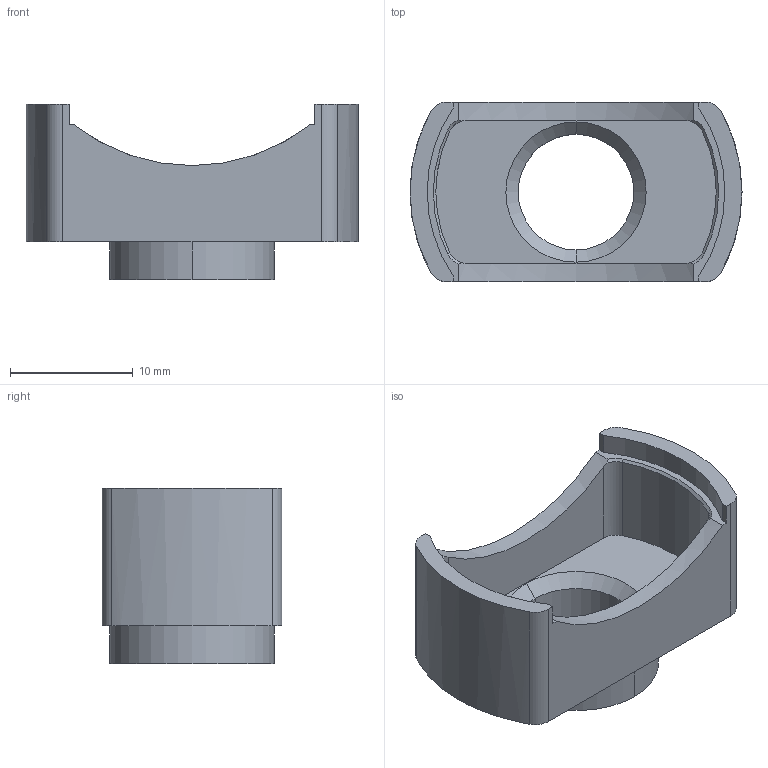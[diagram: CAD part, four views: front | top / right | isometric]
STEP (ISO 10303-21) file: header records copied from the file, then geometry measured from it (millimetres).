
FILE_DESCRIPTION(('CATIA V5 STEP Exchange','CAx-IF Rec.Pracs.--- Model Styling and Organization---1.4--- 2014-01-23','CAx-IF Rec.Pracs.---3D Tessellated Data Validation Properties---0.5---2014-09-14'),'2;1');
FILE_NAME('C:\Users\IS33\Desktop\220112移動データ\手配用データ\DT341M517-00-.stp','2022-01-13T09:36:21+00:00',('none'),('none'),'CATIA Version 5-6 Release 2019 SP3','CATIA V5 STEP AP242 v1','none');
FILE_SCHEMA(('AP242_MANAGED_MODEL_BASED_3D_ENGINEERING_MIM_LF {1 0 10303 442 1 1 4}'));
Length unit declared in the file: millimetre
Products named in the file (1): spacer_APD_1_3-3
Bounding box: 27 x 14.6 x 14.26 mm (x, y, z)
Volume: 1665.2 mm3; surface area: 1998.4 mm2
Topology: 1 solids, 1 shells, 45 faces, 146 edges, 104 vertices
Faces by surface type: cylinder 20, plane 15, cone 10
Entity records: 1588 total; most frequent: CARTESIAN_POINT 311, ORIENTED_EDGE 292, DIRECTION 210, EDGE_CURVE 146, AXIS2_PLACEMENT_3D 115, VERTEX_POINT 104, CIRCLE 78, VECTOR 60
